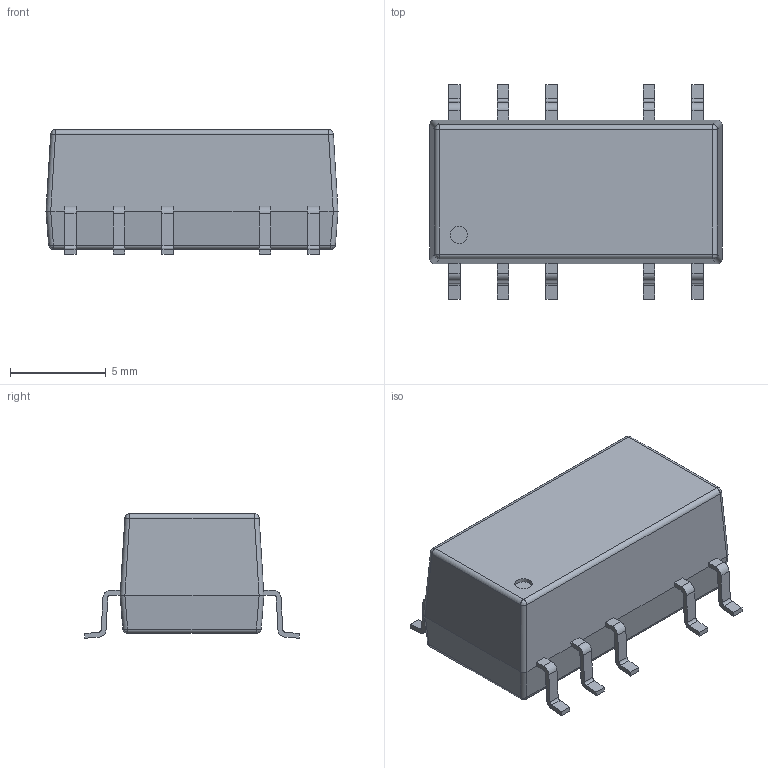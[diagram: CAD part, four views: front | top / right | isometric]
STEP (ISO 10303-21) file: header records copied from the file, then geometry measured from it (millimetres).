
FILE_DESCRIPTION((''),'2;1');
FILE_NAME('ISFXXXX-H','2017-11-01T',('eng706'),(''),'PRO/ENGINEER BY PARAMETRIC TECHNOLOGY CORPORATION, 2014000','PRO/ENGINEER BY PARAMETRIC TECHNOLOGY CORPORATION, 2014000','');
FILE_SCHEMA(('AUTOMOTIVE_DESIGN { 1 0 10303 214 1 1 1 1 }'));
Length unit declared in the file: millimetre
Products named in the file (1): ISFXXXX-H
Bounding box: 15.24 x 11.2 x 6.5 mm (x, y, z)
Volume: 686.7 mm3; surface area: 542.4 mm2
Topology: 1 solids, 1 shells, 167 faces, 448 edges, 276 vertices
Faces by surface type: plane 101, cylinder 58, bspline 8
Entity records: 7359 total; most frequent: CARTESIAN_POINT 1426, ORIENTED_EDGE 880, DIRECTION 860, PRESENTATION_STYLE_ASSIGNMENT 475, STYLED_ITEM 441, CURVE_STYLE 440, EDGE_CURVE 440, VECTOR 328
